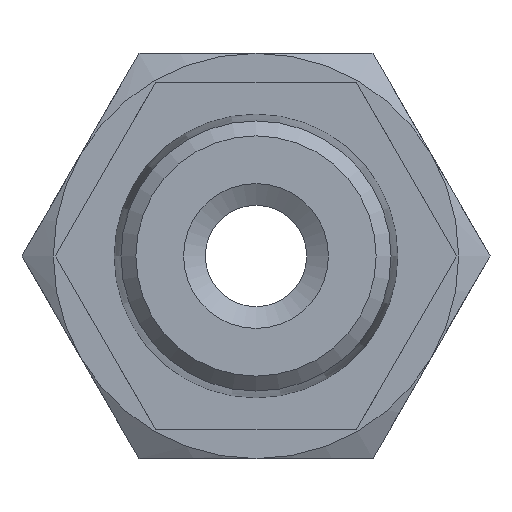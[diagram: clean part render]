
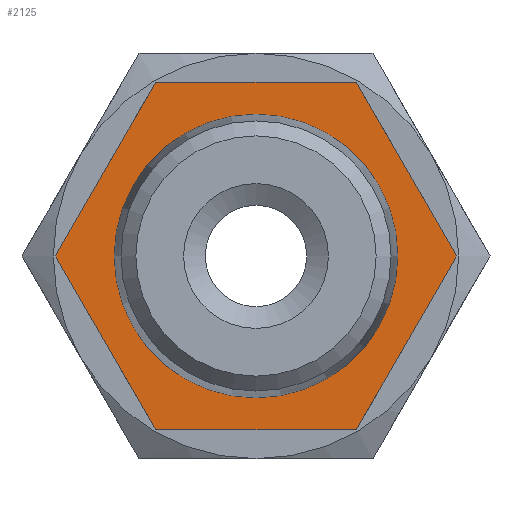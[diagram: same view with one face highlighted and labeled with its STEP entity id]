
A CAD part, front view. The second image highlights one B-rep face of the part: STEP entity #2125.
In plain terms, the highlighted planar face has unit normal (0, -1, 0).
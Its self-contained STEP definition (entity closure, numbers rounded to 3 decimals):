
#1252=CARTESIAN_POINT('',(-6.928,8.,0.));
#1253=VERTEX_POINT('',#1252);
#1254=CARTESIAN_POINT('',(-3.464,8.,-6.));
#1255=VERTEX_POINT('',#1254);
#1256=CARTESIAN_POINT('',(-6.928,8.,0.));
#1257=DIRECTION('',(0.5,0.0,-0.866));
#1258=VECTOR('',#1257,6.928);
#1259=LINE('',#1256,#1258);
#1260=EDGE_CURVE('',#1253,#1255,#1259,.T.);
#1314=CARTESIAN_POINT('',(3.464,8.,-6.));
#1315=VERTEX_POINT('',#1314);
#1316=CARTESIAN_POINT('',(6.928,8.,0.0));
#1317=VERTEX_POINT('',#1316);
#1318=CARTESIAN_POINT('',(3.464,8.,-6.));
#1319=DIRECTION('',(0.5,0.0,0.866));
#1320=VECTOR('',#1319,6.928);
#1321=LINE('',#1318,#1320);
#1322=EDGE_CURVE('',#1315,#1317,#1321,.T.);
#1376=CARTESIAN_POINT('',(-3.464,8.,-6.));
#1377=DIRECTION('',(1.0,0.0,0.));
#1378=VECTOR('',#1377,6.928);
#1379=LINE('',#1376,#1378);
#1380=EDGE_CURVE('',#1255,#1315,#1379,.T.);
#1420=CARTESIAN_POINT('',(3.464,8.,6.));
#1421=VERTEX_POINT('',#1420);
#1422=CARTESIAN_POINT('',(6.928,8.,0.0));
#1423=DIRECTION('',(-0.5,0.0,0.866));
#1424=VECTOR('',#1423,6.928);
#1425=LINE('',#1422,#1424);
#1426=EDGE_CURVE('',#1317,#1421,#1425,.T.);
#1473=CARTESIAN_POINT('',(-3.464,8.,6.));
#1474=VERTEX_POINT('',#1473);
#1475=CARTESIAN_POINT('',(3.464,8.,6.));
#1476=DIRECTION('',(-1.0,0.0,0.0));
#1477=VECTOR('',#1476,6.928);
#1478=LINE('',#1475,#1477);
#1479=EDGE_CURVE('',#1421,#1474,#1478,.T.);
#1526=CARTESIAN_POINT('',(-3.464,8.,6.));
#1527=DIRECTION('',(-0.5,0.0,-0.866));
#1528=VECTOR('',#1527,6.928);
#1529=LINE('',#1526,#1528);
#1530=EDGE_CURVE('',#1474,#1253,#1529,.T.);
#2101=CARTESIAN_POINT('',(5.914,8.,0.0));
#2102=DIRECTION('',(0.0,-1.0,0.0));
#2103=DIRECTION('',(0.0,0.0,-1.0));
#2104=AXIS2_PLACEMENT_3D('',#2101,#2102,#2103);
#2105=PLANE('',#2104);
#2106=ORIENTED_EDGE('',*,*,#1530,.T.);
#2107=ORIENTED_EDGE('',*,*,#1260,.T.);
#2108=ORIENTED_EDGE('',*,*,#1380,.T.);
#2109=ORIENTED_EDGE('',*,*,#1322,.T.);
#2110=ORIENTED_EDGE('',*,*,#1426,.T.);
#2111=ORIENTED_EDGE('',*,*,#1479,.T.);
#2112=EDGE_LOOP('',(#2106,#2107,#2108,#2109,#2110,#2111));
#2113=FACE_OUTER_BOUND('',#2112,.T.);
#2114=CARTESIAN_POINT('',(4.9,8.0,0.0));
#2115=VERTEX_POINT('',#2114);
#2116=CARTESIAN_POINT('',(0.,8.0,0.0));
#2117=DIRECTION('',(0.0,-1.0,0.0));
#2118=DIRECTION('',(1.0,0.0,0.0));
#2119=AXIS2_PLACEMENT_3D('',#2116,#2117,#2118);
#2120=CIRCLE('',#2119,4.9);
#2121=EDGE_CURVE('',#2115,#2115,#2120,.T.);
#2122=ORIENTED_EDGE('',*,*,#2121,.F.);
#2123=EDGE_LOOP('',(#2122));
#2124=FACE_BOUND('',#2123,.T.);
#2125=ADVANCED_FACE('',(#2113,#2124),#2105,.T.);
